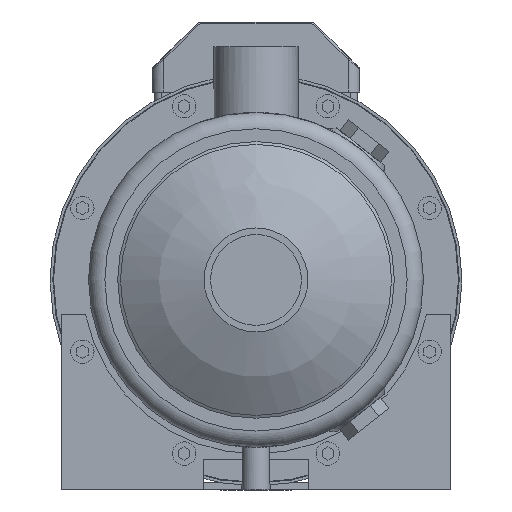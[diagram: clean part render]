
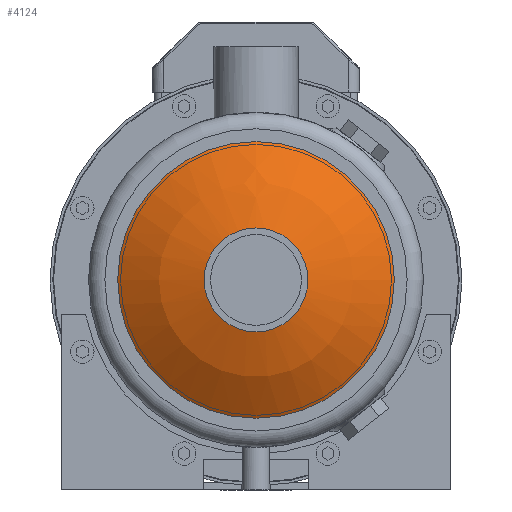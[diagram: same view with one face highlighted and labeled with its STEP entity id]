
A CAD part, left-side view. The second image highlights one B-rep face of the part: STEP entity #4124.
In plain terms, the highlighted spherical face has radius 100 mm.
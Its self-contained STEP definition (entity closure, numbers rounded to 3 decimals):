
#63=SPHERICAL_SURFACE('',#5530,100.);
#953=ORIENTED_EDGE('',*,*,#2066,.T.);
#954=ORIENTED_EDGE('',*,*,#2065,.F.);
#2065=EDGE_CURVE('',#2626,#2626,#3010,.T.);
#2066=EDGE_CURVE('',#2627,#2627,#3011,.T.);
#2626=VERTEX_POINT('',#7397);
#2627=VERTEX_POINT('',#7400);
#3010=CIRCLE('',#5529,22.25);
#3011=CIRCLE('',#5531,59.25);
#3198=EDGE_LOOP('',(#953));
#3199=EDGE_LOOP('',(#954));
#3587=FACE_BOUND('',#3198,.T.);
#3588=FACE_BOUND('',#3199,.T.);
#4124=ADVANCED_FACE('',(#3587,#3588),#63,.T.);
#5529=AXIS2_PLACEMENT_3D('',#7396,#6035,#6036);
#5530=AXIS2_PLACEMENT_3D('',#7398,#6037,#6038);
#5531=AXIS2_PLACEMENT_3D('',#7399,#6039,#6040);
#6035=DIRECTION('',(-1.,0.,0.));
#6036=DIRECTION('',(0.,0.,1.));
#6037=DIRECTION('',(-1.,0.,0.));
#6038=DIRECTION('',(0.,0.,1.));
#6039=DIRECTION('',(-1.,0.,0.));
#6040=DIRECTION('',(0.,0.,1.));
#7396=CARTESIAN_POINT('',(-140.693,0.,0.));
#7397=CARTESIAN_POINT('',(-140.693,0.,22.25));
#7398=CARTESIAN_POINT('',(-43.2,0.,0.));
#7399=CARTESIAN_POINT('',(-123.757,0.,0.));
#7400=CARTESIAN_POINT('',(-123.757,0.,59.25));
